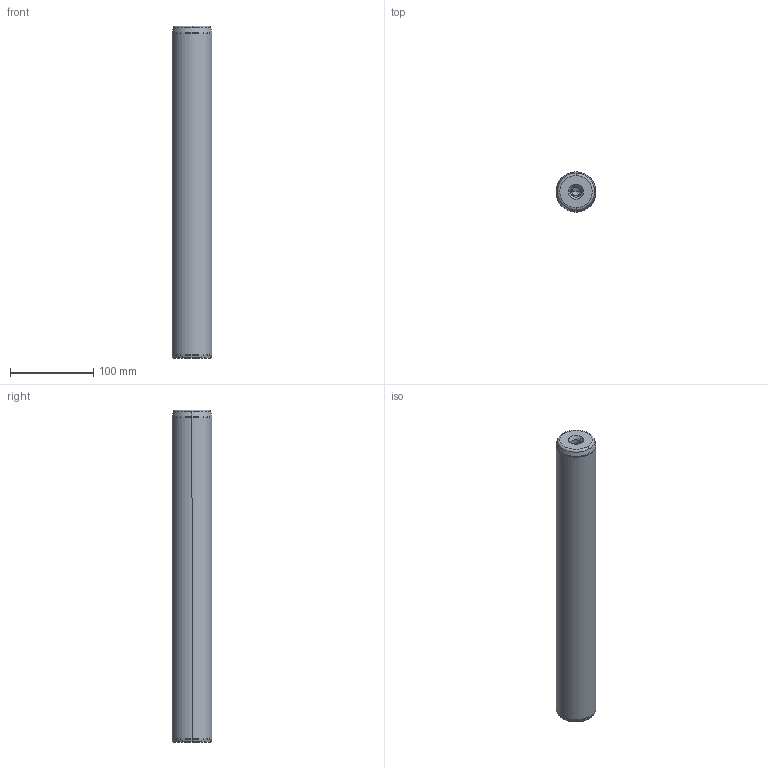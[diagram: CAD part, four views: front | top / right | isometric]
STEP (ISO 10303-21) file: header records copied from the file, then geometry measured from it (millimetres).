
FILE_DESCRIPTION((''),'2;1');
FILE_NAME('P10_048_400.stp','2008-12-23T16:09:37',(''),(''),'Mechanical Desktop 2009','Mechanical Desktop 2009',', , ');
FILE_SCHEMA(('CONFIG_CONTROL_DESIGN'));
Length unit declared in the file: millimetre
Products named in the file (5): Product; ProductAA; blmdl1; ProductA; blmdl1A
Assembly tree (2 placements, depth 3):
  Product
    ProductAA
      blmdl1
  ProductA
  blmdl1A
Bounding box: 48 x 48 x 400 mm (x, y, z)
Volume: 718256.5 mm3; surface area: 64595.4 mm2
Topology: 1 solids, 1 shells, 26 faces, 66 edges, 41 vertices
Faces by surface type: cone 10, torus 8, cylinder 6, plane 2
Entity records: 1012 total; most frequent: DIRECTION 170, CARTESIAN_POINT 134, ORIENTED_EDGE 128, AXIS2_PLACEMENT_3D 77, EDGE_CURVE 64, CIRCLE 48, VERTEX_POINT 41, EDGE_LOOP 27
